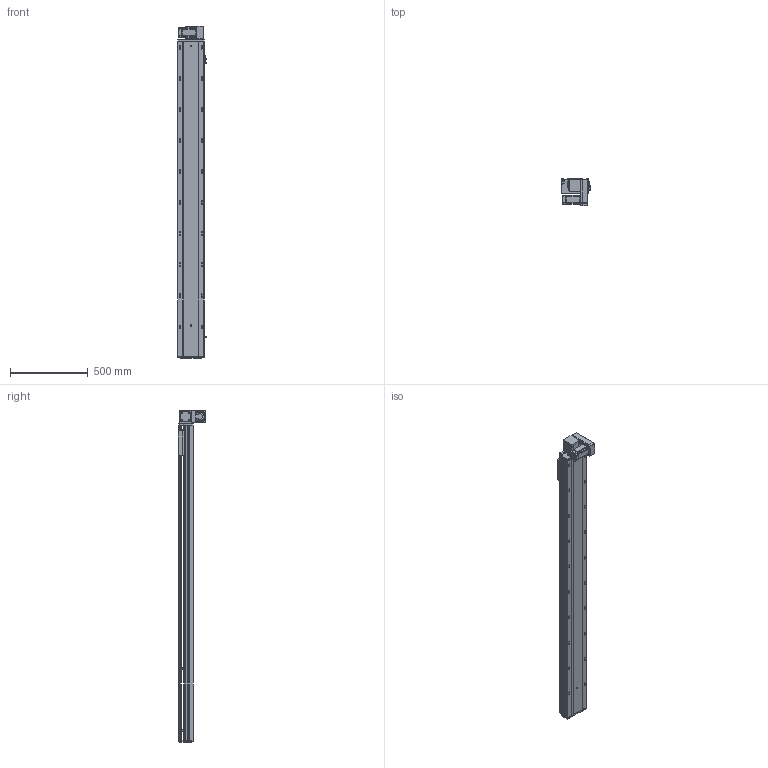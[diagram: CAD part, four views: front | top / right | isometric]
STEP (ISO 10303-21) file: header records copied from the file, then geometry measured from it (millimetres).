
FILE_DESCRIPTION (( 'STEP AP203' ), '1' );
FILE_NAME ('RY170-T-300-DR-P400W.SLDASM_1750.step', '2021-03-01T08:24:31', ( '盈信电脑' ), ( '东莞市道滘镇水果街19号' ), 'SwSTEP 2.0', 'SolidWorks 2012', '' );
FILE_SCHEMA (( 'CONFIG_CONTROL_DESIGN' ));
Length unit declared in the file: millimetre
Products named in the file (19): RY170-T-300-DR-P400W.SLDASM_1750; 滅袉蝶18-10; RY170-T蹟翐M4; RY170-T-呴雄粣揤踡啣; 15; RY170-T肮祭湍揤踡輸2; RY120-T主同步轮轴承压盖; RY170-T肮祭謫裔啣; RY170同步轮电机安装板(400W); RY170翋肮祭謫釱; RY170肮祭謫萇儂欶; RY170-T肮祭湍揤踡輸1; RY170外置感应片(200共用）; RY170綴裔啣; 覜茼ん672; RY170肮祭謫ヶ裔啣; RY170-T-300肮祭謫倰第裔啣-DR_1750; RY170-T-300肮祭謫倰第菁釱-DR_1750; RY170肮祭湍臏賑輸
Assembly tree (23 placements, depth 2):
  RY170-T-300-DR-P400W.SLDASM_1750
    RY170-T-300肮祭謫倰第菁釱-DR_1750
    RY170肮祭湍臏賑輸
    RY170-T-300肮祭謫倰第裔啣-DR_1750
    RY170綴裔啣
    覜茼ん672  x3
    RY170外置感应片(200共用）
    RY170肮祭謫ヶ裔啣
    RY170翋肮祭謫釱
    RY170同步轮电机安装板(400W)
    RY170肮祭謫萇儂欶
    RY170-T肮祭湍揤踡輸1  x2
    RY170-T肮祭湍揤踡輸2  x2
    RY120-T主同步轮轴承压盖
    RY170-T肮祭謫裔啣
    RY170-T蹟翐M4
    滅袉蝶18-10  x2
    RY170-T-呴雄粣揤踡啣
    15
Bounding box: 183.7 x 178 x 2138 mm (x, y, z)
Volume: 10048279.5 mm3; surface area: 3451061.5 mm2
Topology: 23 solids, 23 shells, 2934 faces, 8182 edges, 5223 vertices
Faces by surface type: cylinder 1346, plane 1270, cone 288, bspline 30
Entity records: 88517 total; most frequent: CARTESIAN_POINT 20102, ORIENTED_EDGE 13968, DIRECTION 13702, EDGE_CURVE 6984, AXIS2_PLACEMENT_3D 4853, VERTEX_POINT 4579, VECTOR 3996, LINE 3996
